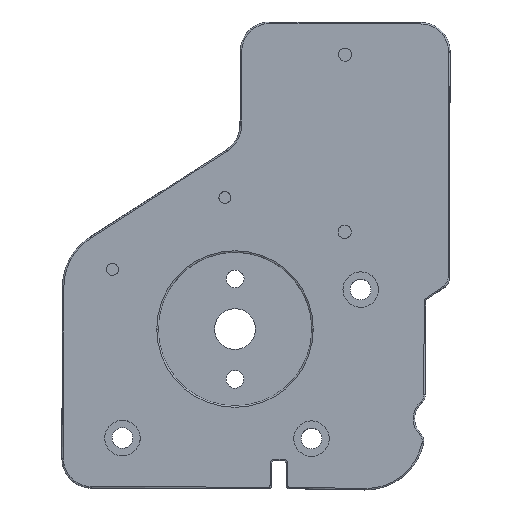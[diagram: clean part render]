
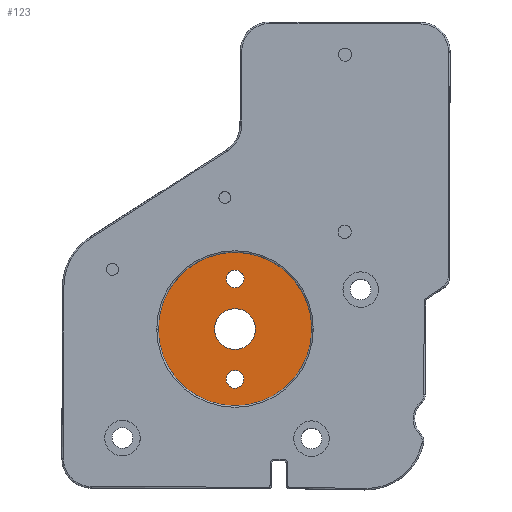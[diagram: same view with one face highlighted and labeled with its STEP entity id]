
A CAD part, top view. The second image highlights one B-rep face of the part: STEP entity #123.
In plain terms, the highlighted planar face has unit normal (0, 0, 1).
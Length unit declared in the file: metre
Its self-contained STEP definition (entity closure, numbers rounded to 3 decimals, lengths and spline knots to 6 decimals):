
#123=ADVANCED_FACE('0:395',(#363,#364,#365,#366),#367,.T.);
#363=FACE_BOUND('',#712,.T.);
#364=FACE_BOUND('',#713,.T.);
#365=FACE_OUTER_BOUND('',#714,.T.);
#366=FACE_BOUND('',#715,.T.);
#367=PLANE('',#716);
#712=EDGE_LOOP('',(#1443,#1444,#1445));
#713=EDGE_LOOP('',(#1446,#1447,#1448));
#714=EDGE_LOOP('',(#1449,#1450,#1451));
#715=EDGE_LOOP('',(#1452,#1453,#1454));
#716=AXIS2_PLACEMENT_3D('',#1455,#1456,#1457);
#1443=ORIENTED_EDGE('',*,*,#2485,.F.);
#1444=ORIENTED_EDGE('',*,*,#2484,.F.);
#1445=ORIENTED_EDGE('',*,*,#2466,.F.);
#1446=ORIENTED_EDGE('',*,*,#2416,.F.);
#1447=ORIENTED_EDGE('',*,*,#2415,.F.);
#1448=ORIENTED_EDGE('',*,*,#2499,.F.);
#1449=ORIENTED_EDGE('',*,*,#2500,.T.);
#1450=ORIENTED_EDGE('',*,*,#2420,.T.);
#1451=ORIENTED_EDGE('',*,*,#2501,.T.);
#1452=ORIENTED_EDGE('',*,*,#2502,.F.);
#1453=ORIENTED_EDGE('',*,*,#2503,.F.);
#1454=ORIENTED_EDGE('',*,*,#2411,.F.);
#1455=CARTESIAN_POINT('',(0.019296,0.077019,0.000498));
#1456=DIRECTION('',(0.,0.,1.));
#1457=DIRECTION('',(1.,-0.003,0.));
#2411=EDGE_CURVE('0:1295',#2981,#2984,#2985,.T.);
#2415=EDGE_CURVE('0:1301',#2989,#2992,#2993,.T.);
#2416=EDGE_CURVE('0:1301',#2992,#2994,#2995,.T.);
#2420=EDGE_CURVE('0:1307',#3002,#2999,#3003,.F.);
#2466=EDGE_CURVE('0:1325',#3081,#3084,#3085,.T.);
#2484=EDGE_CURVE('0:1325',#3084,#3114,#3115,.T.);
#2485=EDGE_CURVE('0:1325',#3114,#3081,#3116,.T.);
#2499=EDGE_CURVE('0:1301',#2994,#2989,#3131,.T.);
#2500=EDGE_CURVE('0:1307',#3132,#3002,#3133,.F.);
#2501=EDGE_CURVE('0:1307',#2999,#3132,#3134,.F.);
#2502=EDGE_CURVE('0:1295',#3135,#2981,#3136,.T.);
#2503=EDGE_CURVE('0:1295',#2984,#3135,#3137,.T.);
#2981=VERTEX_POINT('',#3729);
#2984=VERTEX_POINT('',#3733);
#2985=CIRCLE('',#3734,0.0015);
#2989=VERTEX_POINT('',#3739);
#2992=VERTEX_POINT('',#3743);
#2993=CIRCLE('',#3744,0.0015);
#2994=VERTEX_POINT('',#3745);
#2995=CIRCLE('',#3746,0.0015);
#2999=VERTEX_POINT('',#3751);
#3002=VERTEX_POINT('',#3755);
#3003=CIRCLE('',#3756,0.013);
#3081=VERTEX_POINT('',#3853);
#3084=VERTEX_POINT('',#3857);
#3085=CIRCLE('',#3858,0.00345);
#3114=VERTEX_POINT('',#3892);
#3115=CIRCLE('',#3893,0.00345);
#3116=CIRCLE('',#3894,0.00345);
#3131=CIRCLE('',#3909,0.0015);
#3132=VERTEX_POINT('',#3910);
#3133=CIRCLE('',#3911,0.013);
#3134=CIRCLE('',#3912,0.013);
#3135=VERTEX_POINT('',#3913);
#3136=CIRCLE('',#3914,0.0015);
#3137=CIRCLE('',#3915,0.0015);
#3729=CARTESIAN_POINT('',(0.01607,0.085778,0.000497));
#3733=CARTESIAN_POINT('',(0.01907,0.08577,0.000497));
#3734=AXIS2_PLACEMENT_3D('',#4533,#4534,#4535);
#3739=CARTESIAN_POINT('',(0.016022,0.068778,0.000498));
#3743=CARTESIAN_POINT('',(0.017518,0.067274,0.000498));
#3744=AXIS2_PLACEMENT_3D('',#4541,#4542,#4543);
#3745=CARTESIAN_POINT('',(0.019022,0.06877,0.000498));
#3746=AXIS2_PLACEMENT_3D('',#4544,#4545,#4546);
#3751=CARTESIAN_POINT('',(0.030546,0.077237,0.000497));
#3755=CARTESIAN_POINT('',(0.004546,0.07731,0.000499));
#3756=AXIS2_PLACEMENT_3D('',#4552,#4553,#4554);
#3853=CARTESIAN_POINT('',(0.020996,0.077264,0.000497));
#3857=CARTESIAN_POINT('',(0.014096,0.077284,0.000498));
#3858=AXIS2_PLACEMENT_3D('',#4650,#4651,#4652);
#3892=CARTESIAN_POINT('',(0.017537,0.073824,0.000498));
#3893=AXIS2_PLACEMENT_3D('',#4694,#4695,#4696);
#3894=AXIS2_PLACEMENT_3D('',#4697,#4698,#4699);
#3909=AXIS2_PLACEMENT_3D('',#4739,#4740,#4741);
#3910=CARTESIAN_POINT('',(0.017907,0.090269,0.000497));
#3911=AXIS2_PLACEMENT_3D('',#4742,#4743,#4744);
#3912=AXIS2_PLACEMENT_3D('',#4745,#4746,#4747);
#3913=CARTESIAN_POINT('',(0.017612,0.087273,0.000497));
#3914=AXIS2_PLACEMENT_3D('',#4748,#4749,#4750);
#3915=AXIS2_PLACEMENT_3D('',#4751,#4752,#4753);
#4533=CARTESIAN_POINT('',(0.01757,0.085774,0.000497));
#4534=DIRECTION('',(0.,0.,1.));
#4535=DIRECTION('',(-1.,0.003,0.));
#4541=CARTESIAN_POINT('',(0.017522,0.068774,0.000498));
#4542=DIRECTION('',(0.,0.,1.));
#4543=DIRECTION('',(-1.,0.003,0.));
#4544=CARTESIAN_POINT('',(0.017522,0.068774,0.000498));
#4545=DIRECTION('',(0.,0.,1.));
#4546=DIRECTION('',(-1.,0.003,0.));
#4552=CARTESIAN_POINT('',(0.017546,0.077274,0.000498));
#4553=DIRECTION('',(0.,0.,-1.));
#4554=DIRECTION('',(1.,-0.003,0.));
#4650=CARTESIAN_POINT('',(0.017546,0.077274,0.000498));
#4651=DIRECTION('',(0.,0.,1.));
#4652=DIRECTION('',(1.,-0.003,0.));
#4694=CARTESIAN_POINT('',(0.017546,0.077274,0.000498));
#4695=DIRECTION('',(0.,0.,1.));
#4696=DIRECTION('',(1.,-0.003,0.));
#4697=CARTESIAN_POINT('',(0.017546,0.077274,0.000498));
#4698=DIRECTION('',(0.,0.,1.));
#4699=DIRECTION('',(1.,-0.003,0.));
#4739=CARTESIAN_POINT('',(0.017522,0.068774,0.000498));
#4740=DIRECTION('',(0.,0.,1.));
#4741=DIRECTION('',(-1.,0.003,0.));
#4742=CARTESIAN_POINT('',(0.017546,0.077274,0.000498));
#4743=DIRECTION('',(0.,0.,-1.));
#4744=DIRECTION('',(1.,-0.003,0.));
#4745=CARTESIAN_POINT('',(0.017546,0.077274,0.000498));
#4746=DIRECTION('',(0.,0.,-1.));
#4747=DIRECTION('',(1.,-0.003,0.));
#4748=CARTESIAN_POINT('',(0.01757,0.085774,0.000497));
#4749=DIRECTION('',(0.,0.,1.));
#4750=DIRECTION('',(-1.,0.003,0.));
#4751=CARTESIAN_POINT('',(0.01757,0.085774,0.000497));
#4752=DIRECTION('',(0.,0.,1.));
#4753=DIRECTION('',(-1.,0.003,0.));
